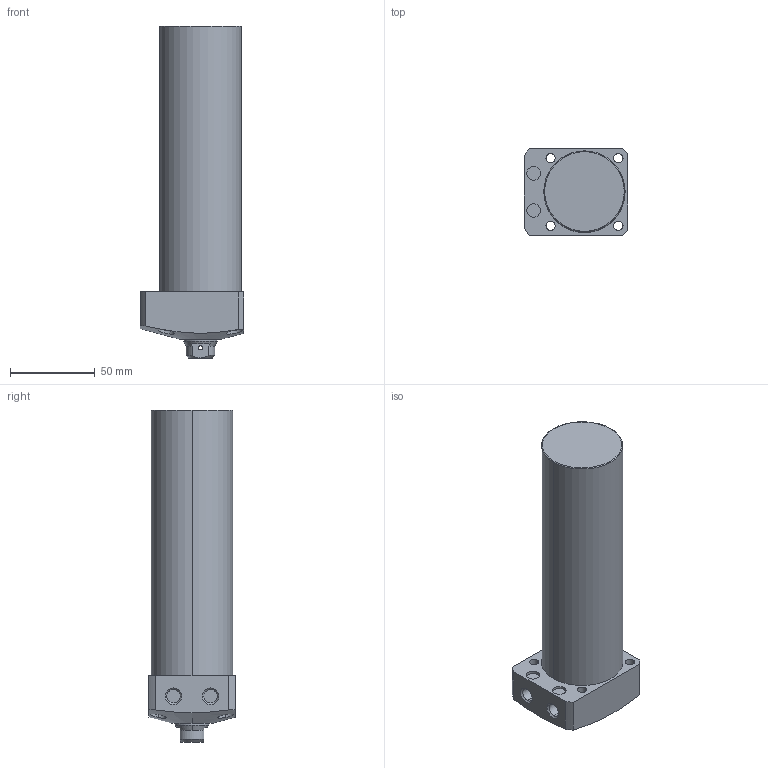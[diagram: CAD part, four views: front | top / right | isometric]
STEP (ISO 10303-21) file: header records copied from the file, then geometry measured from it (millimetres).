
FILE_DESCRIPTION (( 'STEP AP203' ), '1' );
FILE_NAME ('CLL-048CB-130.STEP', '2019-12-21T07:50:27', ( '' ), ( '' ), 'SwSTEP 2.0', 'SolidWorks 2015', '' );
FILE_SCHEMA (( 'CONFIG_CONTROL_DESIGN' ));
Length unit declared in the file: millimetre
Products named in the file (1): CLL-048CB-130
Bounding box: 61 x 51 x 196 mm (x, y, z)
Volume: 358265 mm3; surface area: 38490 mm2
Topology: 1 solids, 1 shells, 78 faces, 182 edges, 115 vertices
Faces by surface type: cylinder 39, plane 22, cone 15, torus 2
Entity records: 2751 total; most frequent: CARTESIAN_POINT 852, DIRECTION 394, ORIENTED_EDGE 360, EDGE_CURVE 180, AXIS2_PLACEMENT_3D 163, VERTEX_POINT 115, EDGE_LOOP 101, CIRCLE 84
